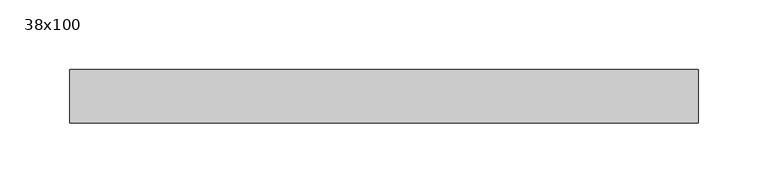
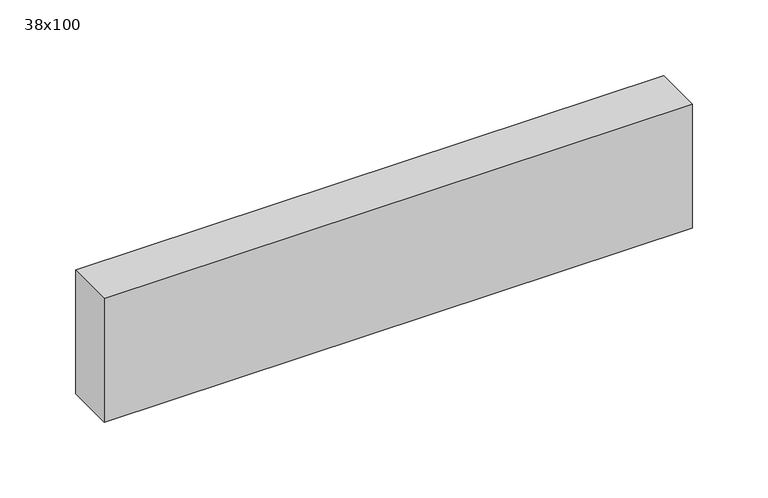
"""IFC4 building model written with IfcOpenShell, lengths in millimetres: beam geometry, Poutre - Bois de construction de dimensions courantes : 38x100."""

from ifc_helpers import new_model, si_unit, frame, origin, place, context, project, spatial, polyline, outline, extrude, source, transform, mapped, element, save


def beam_38x100_a0891e69(model_context):
    return source(origin(), model_context, "Body", "SweptSolid", [
        extrude(outline(polyline([(144.5, 19.05), (144.5, -19.05), (-304.5, -19.05), (-304.5, 19.05), (144.5, 19.05)])), frame((0.0, 0.0, -50.0), z_axis=(0.0, 0.0, 1.0), x_axis=(1.0, 0.0, 0.0)), (0.0, 0.0, 1.0), 100.0),
    ])


if __name__ == "__main__":
    model = new_model("IFC4")
    model_context = context("Model", 3, world=origin())
    ifc_project = project(units=[si_unit("LENGTHUNIT", "METRE", prefix="MILLI")], contexts=[model_context])
    site = spatial("IfcSite", under=ifc_project)
    building = spatial("IfcBuilding", under=site)
    placement = place(None, origin())
    beam_38x100_shape = beam_38x100_a0891e69(model_context)
    element("IfcBeam", 1, ObjectType="Poutre - Bois de construction de dimensions courantes : 38x100", at=placement, inside=building, context=model_context, shape_type="MappedRepresentation", body=[
        mapped(beam_38x100_shape, transform((0.0, 0.0, 0.0), x_axis=(1.0, 0.0, 0.0), y_axis=(0.0, 1.0, 0.0), z_axis=(0.0, 0.0, 1.0))),
    ])
    save(model, "model.ifc")
